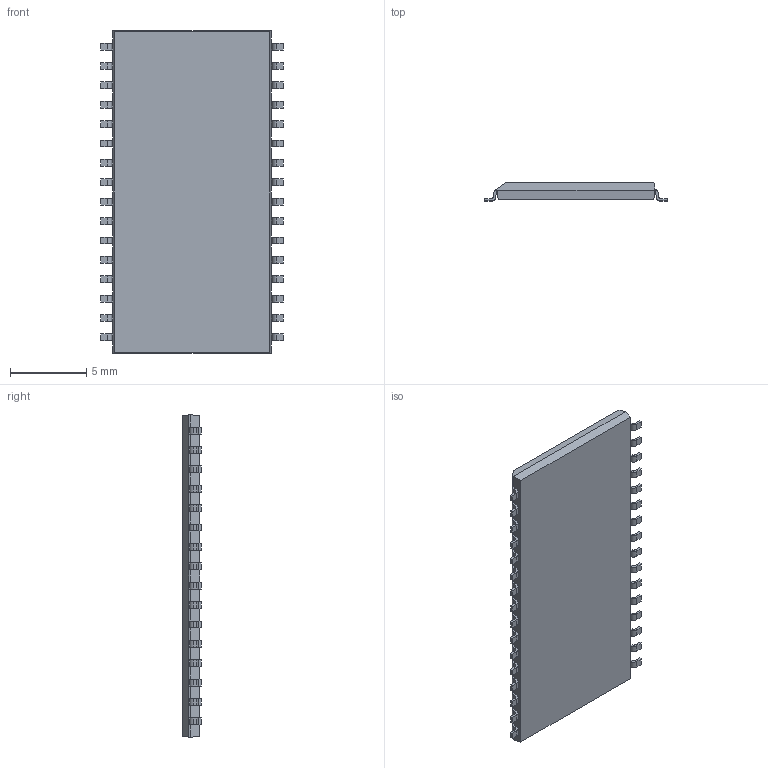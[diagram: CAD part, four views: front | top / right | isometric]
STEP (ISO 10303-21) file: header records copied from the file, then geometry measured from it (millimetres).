
FILE_DESCRIPTION (( 'STEP AP214' ), '1' );
FILE_NAME ('TSOP127P1176X120-32_MS-024.BA.STEP', '2014-12-19T14:13:56', ( 'Tester2' ), ( '' ), 'SwSTEP 2.0', 'SolidWorks 2012', '' );
FILE_SCHEMA (( 'AUTOMOTIVE_DESIGN' ));
Length unit declared in the file: millimetre
Products named in the file (1): TSOP127P1176X120-32_MS-024.BA
Bounding box: 11.96 x 1.2 x 21.15 mm (x, y, z)
Volume: 239 mm3; surface area: 540.4 mm2
Topology: 1 solids, 1 shells, 366 faces, 1085 edges, 722 vertices
Faces by surface type: plane 236, cylinder 130
Entity records: 16176 total; most frequent: CARTESIAN_POINT 2174, ORIENTED_EDGE 2170, DIRECTION 2079, EDGE_CURVE 1085, VECTOR 825, LINE 825, VERTEX_POINT 722, AXIS2_PLACEMENT_3D 627
